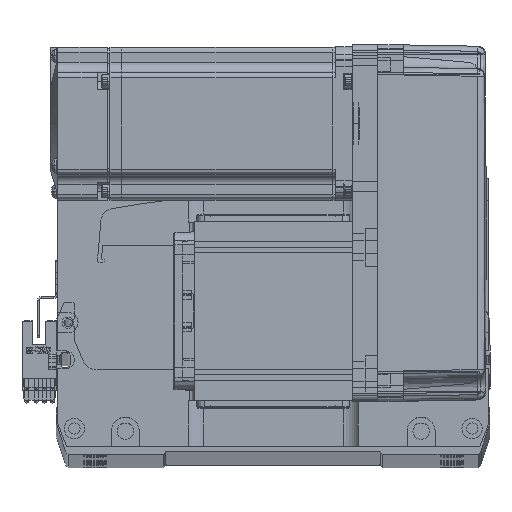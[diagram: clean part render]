
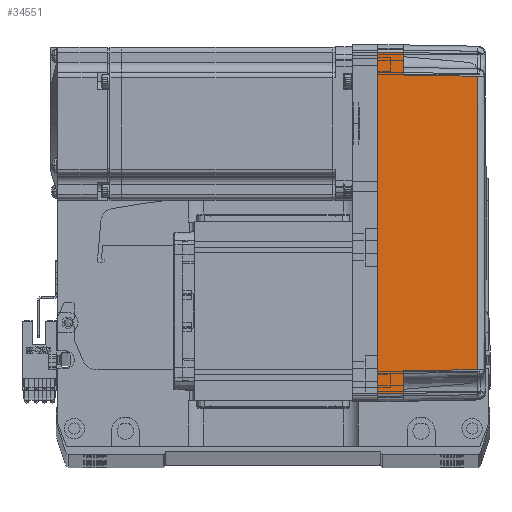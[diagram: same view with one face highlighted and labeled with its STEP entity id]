
A CAD part, top view. The second image highlights one B-rep face of the part: STEP entity #34551.
In plain terms, the highlighted planar face has unit normal (0.018, 0, 1) as drawn and (0, -1, 0.017) by its records, which use the part's own axes.
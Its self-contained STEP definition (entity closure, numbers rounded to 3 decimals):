
#1628 = CARTESIAN_POINT ( 'NONE',  ( -57.495, -35.32, 38.985 ) ) ;
#1923 = VECTOR ( 'NONE', #43024, 1000. ) ;
#1984 = PLANE ( 'NONE',  #57221 ) ;
#2673 = CARTESIAN_POINT ( 'NONE',  ( -19.165, -35.316, 39.181 ) ) ;
#5599 = ORIENTED_EDGE ( 'NONE', *, *, #22558, .T. ) ;
#6979 = VECTOR ( 'NONE', #40920, 1000. ) ;
#7530 = DIRECTION ( 'NONE',  ( 0., -1., 0.017 ) ) ;
#9951 = FACE_OUTER_BOUND ( 'NONE', #35758, .T. ) ;
#10059 = VERTEX_POINT ( 'NONE', #59175 ) ;
#10503 = CARTESIAN_POINT ( 'NONE',  ( -58., -35.825, 10. ) ) ;
#11329 = DIRECTION ( 'NONE',  ( -0.017, 0.017, 1. ) ) ;
#11834 = VERTEX_POINT ( 'NONE', #10503 ) ;
#12628 = VERTEX_POINT ( 'NONE', #60046 ) ;
#13247 = CARTESIAN_POINT ( 'NONE',  ( 70., -36., 0. ) ) ;
#17011 = VECTOR ( 'NONE', #45543, 1000. ) ;
#18196 = EDGE_CURVE ( 'NONE', #61767, #11834, #47125, .T. ) ;
#19225 = CARTESIAN_POINT ( 'NONE',  ( -57.495, -35.32, 38.985 ) ) ;
#21883 = CARTESIAN_POINT ( 'NONE',  ( 67., -36., 0. ) ) ;
#22558 = EDGE_CURVE ( 'NONE', #10059, #61767, #46407, .T. ) ;
#22881 = ORIENTED_EDGE ( 'NONE', *, *, #18196, .T. ) ;
#25519 = CARTESIAN_POINT ( 'NONE',  ( 66.826, -35.825, 10. ) ) ;
#26100 = LINE ( 'NONE', #21883, #30367 ) ;
#26695 = CARTESIAN_POINT ( 'NONE',  ( 67., -36., 0. ) ) ;
#29296 = LINE ( 'NONE', #60515, #1923 ) ;
#30136 = CARTESIAN_POINT ( 'NONE',  ( -57.495, -35.32, 38.985 ) ) ;
#30360 = EDGE_CURVE ( 'NONE', #46002, #36972, #43885, .T. ) ;
#30367 = VECTOR ( 'NONE', #11329, 1000. ) ;
#30640 = CARTESIAN_POINT ( 'NONE',  ( 57.495, -35.32, 38.985 ) ) ;
#31061 = DIRECTION ( 'NONE',  ( -1., 0., 0. ) ) ;
#32047 = DIRECTION ( 'NONE',  ( -0.017, 0.017, 1. ) ) ;
#34551 = ADVANCED_FACE ( 'NONE', ( #9951 ), #1984, .T. ) ;
#35758 = EDGE_LOOP ( 'NONE', ( #42406, #66672, #38486, #5599, #22881, #36923, #43797, #38075 ) ) ;
#36142 = LINE ( 'NONE', #64580, #38728 ) ;
#36314 = VERTEX_POINT ( 'NONE', #44853 ) ;
#36923 = ORIENTED_EDGE ( 'NONE', *, *, #37274, .T. ) ;
#36972 = VERTEX_POINT ( 'NONE', #57403 ) ;
#37148 = EDGE_CURVE ( 'NONE', #12628, #10059, #36142, .T. ) ;
#37274 = EDGE_CURVE ( 'NONE', #11834, #36314, #29296, .T. ) ;
#38075 = ORIENTED_EDGE ( 'NONE', *, *, #30360, .F. ) ;
#38486 = ORIENTED_EDGE ( 'NONE', *, *, #37148, .T. ) ;
#38728 = VECTOR ( 'NONE', #32047, 1000. ) ;
#40676 = CARTESIAN_POINT ( 'NONE',  ( 19.165, -35.316, 39.181 ) ) ;
#40920 = DIRECTION ( 'NONE',  ( -0.017, -0.017, -1. ) ) ;
#41085 = CARTESIAN_POINT ( 'NONE',  ( 0., -36., 0. ) ) ;
#42406 = ORIENTED_EDGE ( 'NONE', *, *, #48781, .T. ) ;
#42595 = LINE ( 'NONE', #61141, #17011 ) ;
#43024 = DIRECTION ( 'NONE',  ( -1., 0., 0. ) ) ;
#43797 = ORIENTED_EDGE ( 'NONE', *, *, #49153, .F. ) ;
#43885 = LINE ( 'NONE', #41085, #46401 ) ;
#44853 = CARTESIAN_POINT ( 'NONE',  ( -66.826, -35.825, 10. ) ) ;
#45543 = DIRECTION ( 'NONE',  ( -1., 0., 0. ) ) ;
#46002 = VERTEX_POINT ( 'NONE', #26695 ) ;
#46178 = EDGE_CURVE ( 'NONE', #65601, #12628, #42595, .T. ) ;
#46401 = VECTOR ( 'NONE', #31061, 1000. ) ;
#46407 = B_SPLINE_CURVE_WITH_KNOTS ( 'NONE', 3,
 ( #30640, #40676, #2673, #30136 ),
 .UNSPECIFIED., .F., .F.,
 ( 4, 4 ),
 ( 0., 1. ),
 .UNSPECIFIED. ) ;
#46534 = LINE ( 'NONE', #59656, #69638 ) ;
#47125 = LINE ( 'NONE', #19225, #6979 ) ;
#47929 = DIRECTION ( 'NONE',  ( 0.017, 0.017, 1. ) ) ;
#48781 = EDGE_CURVE ( 'NONE', #46002, #65601, #26100, .T. ) ;
#49153 = EDGE_CURVE ( 'NONE', #36972, #36314, #46534, .T. ) ;
#57221 = AXIS2_PLACEMENT_3D ( 'NONE', #13247, #7530, #61774 ) ;
#57403 = CARTESIAN_POINT ( 'NONE',  ( -67., -36., 0. ) ) ;
#59175 = CARTESIAN_POINT ( 'NONE',  ( 57.495, -35.32, 38.985 ) ) ;
#59656 = CARTESIAN_POINT ( 'NONE',  ( -66.959, -35.958, 2.39 ) ) ;
#60046 = CARTESIAN_POINT ( 'NONE',  ( 58., -35.825, 10. ) ) ;
#60515 = CARTESIAN_POINT ( 'NONE',  ( 70., -35.825, 10. ) ) ;
#61141 = CARTESIAN_POINT ( 'NONE',  ( 70., -35.825, 10. ) ) ;
#61767 = VERTEX_POINT ( 'NONE', #1628 ) ;
#61774 = DIRECTION ( 'NONE',  ( 0., -0.017, -1. ) ) ;
#64580 = CARTESIAN_POINT ( 'NONE',  ( 58., -35.825, 10. ) ) ;
#65601 = VERTEX_POINT ( 'NONE', #25519 ) ;
#66672 = ORIENTED_EDGE ( 'NONE', *, *, #46178, .T. ) ;
#69638 = VECTOR ( 'NONE', #47929, 1000. ) ;
